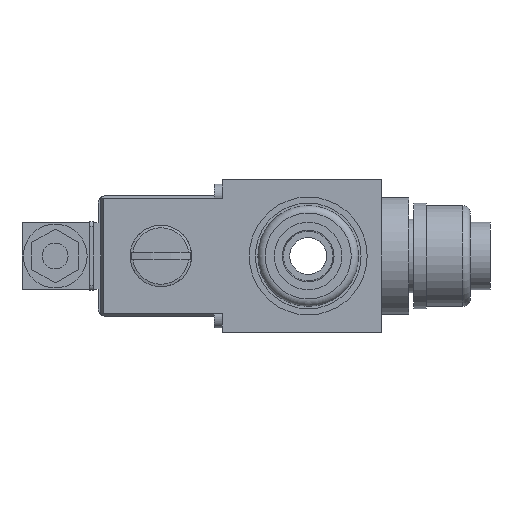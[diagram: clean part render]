
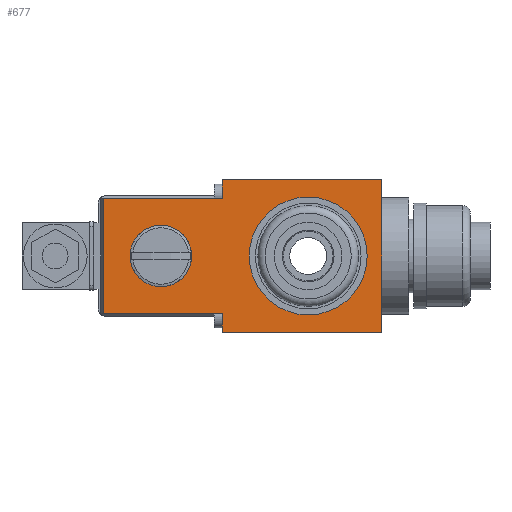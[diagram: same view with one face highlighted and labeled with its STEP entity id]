
A CAD part, left-side view. The second image highlights one B-rep face of the part: STEP entity #677.
In plain terms, the highlighted planar face has unit normal (-1, 0, 0).
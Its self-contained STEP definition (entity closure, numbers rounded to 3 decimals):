
#677 = ADVANCED_FACE( '', ( #1443, #1444, #1445 ), #1446, .T. );
#1443 = FACE_BOUND( '', #2214, .T. );
#1444 = FACE_OUTER_BOUND( '', #2215, .T. );
#1445 = FACE_BOUND( '', #2216, .T. );
#1446 = PLANE( '', #2217 );
#2214 = EDGE_LOOP( '', ( #4014 ) );
#2215 = EDGE_LOOP( '', ( #4015, #4016, #4017, #4018, #4019, #4020, #4021, #4022 ) );
#2216 = EDGE_LOOP( '', ( #4023 ) );
#2217 = AXIS2_PLACEMENT_3D( '', #4024, #4025, #4026 );
#4014 = ORIENTED_EDGE( '', *, *, #4765, .T. );
#4015 = ORIENTED_EDGE( '', *, *, #4712, .T. );
#4016 = ORIENTED_EDGE( '', *, *, #4600, .F. );
#4017 = ORIENTED_EDGE( '', *, *, #4451, .F. );
#4018 = ORIENTED_EDGE( '', *, *, #4792, .T. );
#4019 = ORIENTED_EDGE( '', *, *, #4743, .T. );
#4020 = ORIENTED_EDGE( '', *, *, #4598, .F. );
#4021 = ORIENTED_EDGE( '', *, *, #4680, .F. );
#4022 = ORIENTED_EDGE( '', *, *, #4801, .F. );
#4023 = ORIENTED_EDGE( '', *, *, #4461, .T. );
#4024 = CARTESIAN_POINT( '', ( -25., -55., -31. ) );
#4025 = DIRECTION( '', ( -1., 0., 0. ) );
#4026 = DIRECTION( '', ( 0., 0., 1. ) );
#4451 = EDGE_CURVE( '', #5378, #5379, #5380, .T. );
#4461 = EDGE_CURVE( '', #5395, #5395, #5396, .F. );
#4598 = EDGE_CURVE( '', #5597, #5599, #5600, .T. );
#4600 = EDGE_CURVE( '', #5379, #5602, #5603, .T. );
#4680 = EDGE_CURVE( '', #5703, #5597, #5705, .T. );
#4712 = EDGE_CURVE( '', #5744, #5602, #5745, .T. );
#4743 = EDGE_CURVE( '', #5780, #5599, #5781, .T. );
#4765 = EDGE_CURVE( '', #5806, #5806, #5807, .F. );
#4792 = EDGE_CURVE( '', #5378, #5780, #5836, .T. );
#4801 = EDGE_CURVE( '', #5744, #5703, #5846, .T. );
#5378 = VERTEX_POINT( '', #6598 );
#5379 = VERTEX_POINT( '', #6599 );
#5380 = LINE( '', #6600, #6601 );
#5395 = VERTEX_POINT( '', #6619 );
#5396 = CIRCLE( '', #6620, 24. );
#5597 = VERTEX_POINT( '', #6889 );
#5599 = VERTEX_POINT( '', #6892 );
#5600 = LINE( '', #6893, #6894 );
#5602 = VERTEX_POINT( '', #6897 );
#5603 = LINE( '', #6898, #6899 );
#5703 = VERTEX_POINT( '', #7035 );
#5705 = LINE( '', #7038, #7039 );
#5744 = VERTEX_POINT( '', #7087 );
#5745 = LINE( '', #7088, #7089 );
#5780 = VERTEX_POINT( '', #7134 );
#5781 = LINE( '', #7135, #7136 );
#5806 = VERTEX_POINT( '', #7168 );
#5807 = CIRCLE( '', #7169, 12.5 );
#5836 = LINE( '', #7198, #7199 );
#5846 = LINE( '', #7211, #7212 );
#6598 = CARTESIAN_POINT( '', ( -25., -55., -31. ) );
#6599 = CARTESIAN_POINT( '', ( -25., 10., -31. ) );
#6600 = CARTESIAN_POINT( '', ( -25., -55., -31. ) );
#6601 = VECTOR( '', #7664, 1000. );
#6619 = CARTESIAN_POINT( '', ( -25., -25., 24. ) );
#6620 = AXIS2_PLACEMENT_3D( '', #7677, #7678, #7679 );
#6889 = CARTESIAN_POINT( '', ( -25., 10., 23.5 ) );
#6892 = CARTESIAN_POINT( '', ( -25., 10., 31. ) );
#6893 = CARTESIAN_POINT( '', ( -25., 10., -31. ) );
#6894 = VECTOR( '', #7836, 1000. );
#6897 = CARTESIAN_POINT( '', ( -25., 10., -23.5 ) );
#6898 = CARTESIAN_POINT( '', ( -25., 10., -31. ) );
#6899 = VECTOR( '', #7838, 1000. );
#7035 = CARTESIAN_POINT( '', ( -25., 58.5, 23.5 ) );
#7038 = CARTESIAN_POINT( '', ( -25., 58.5, 23.5 ) );
#7039 = VECTOR( '', #7918, 1000. );
#7087 = CARTESIAN_POINT( '', ( -25., 58.5, -23.5 ) );
#7088 = CARTESIAN_POINT( '', ( -25., 58.5, -23.5 ) );
#7089 = VECTOR( '', #7958, 1000. );
#7134 = CARTESIAN_POINT( '', ( -25., -55., 31. ) );
#7135 = CARTESIAN_POINT( '', ( -25., -55., 31. ) );
#7136 = VECTOR( '', #7984, 1000. );
#7168 = CARTESIAN_POINT( '', ( -25., 35., 12.5 ) );
#7169 = AXIS2_PLACEMENT_3D( '', #7998, #7999, #8000 );
#7198 = CARTESIAN_POINT( '', ( -25., -55., -31. ) );
#7199 = VECTOR( '', #8010, 1000. );
#7211 = CARTESIAN_POINT( '', ( -25., 58.5, -23.5 ) );
#7212 = VECTOR( '', #8016, 1000. );
#7664 = DIRECTION( '', ( 0., 1., 0. ) );
#7677 = CARTESIAN_POINT( '', ( -25., -25., 0. ) );
#7678 = DIRECTION( '', ( -1., 0., 0. ) );
#7679 = DIRECTION( '', ( 0., 0., 1. ) );
#7836 = DIRECTION( '', ( 0., 0., 1. ) );
#7838 = DIRECTION( '', ( 0., 0., 1. ) );
#7918 = DIRECTION( '', ( 0., -1., 0. ) );
#7958 = DIRECTION( '', ( 0., -1., 0. ) );
#7984 = DIRECTION( '', ( 0., 1., 0. ) );
#7998 = CARTESIAN_POINT( '', ( -25., 35., 0. ) );
#7999 = DIRECTION( '', ( -1., 0., 0. ) );
#8000 = DIRECTION( '', ( 0., 0., 1. ) );
#8010 = DIRECTION( '', ( 0., 0., 1. ) );
#8016 = DIRECTION( '', ( 0., 0., 1. ) );
